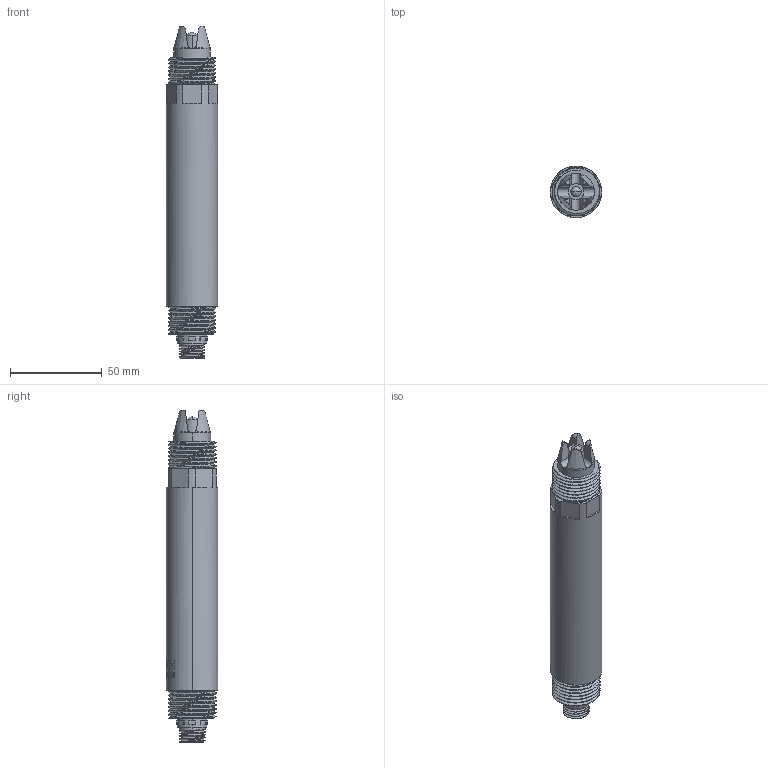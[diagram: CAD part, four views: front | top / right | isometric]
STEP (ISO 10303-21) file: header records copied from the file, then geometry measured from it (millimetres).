
FILE_DESCRIPTION((''),'2;1');
FILE_NAME('KWS-700A_ASM','2025-12-26T11:33:21',('28740194'),(''),'CREO PARAMETRIC BY PTC INC, 2024063','CREO PARAMETRIC BY PTC INC, 2024063','');
FILE_SCHEMA(('CONFIG_CONTROL_DESIGN'));
Length unit declared in the file: millimetre
Products named in the file (6): KWS-700-A-1; 222000; 0001; 0002; 260_ASM; KWS-700A_ASM
Assembly tree (6 placements, depth 3):
  KWS-700A_ASM
    KWS-700-A-1
    222000
    0001
    260_ASM
      0002
      222000
Bounding box: 28 x 28.17 x 180.5 mm (x, y, z)
Volume: 92588.1 mm3; surface area: 21220.3 mm2
Topology: 5 solids, 5 shells, 522 faces, 1434 edges, 951 vertices
Faces by surface type: bspline 346, cylinder 85, plane 81, cone 4, torus 4, sphere 2
Entity records: 23789 total; most frequent: CARTESIAN_POINT 13596, ORIENTED_EDGE 2734, EDGE_CURVE 1367, DIRECTION 1005, B_SPLINE_CURVE_WITH_KNOTS 911, VERTEX_POINT 909, EDGE_LOOP 528, FACE_OUTER_BOUND 497
